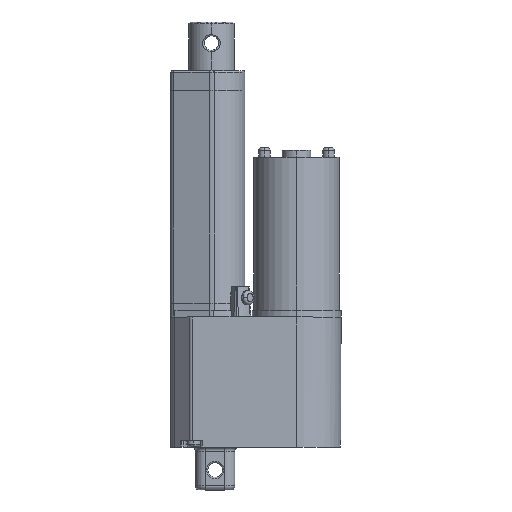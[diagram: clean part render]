
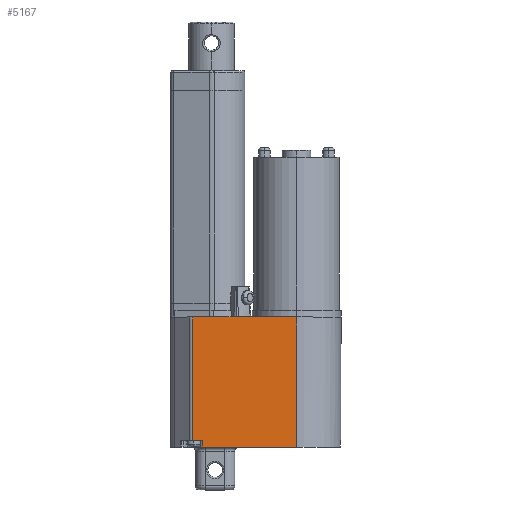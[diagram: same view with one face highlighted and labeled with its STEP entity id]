
A CAD part, top view. The second image highlights one B-rep face of the part: STEP entity #5167.
In plain terms, the highlighted planar face has unit normal (0, 0, 1).
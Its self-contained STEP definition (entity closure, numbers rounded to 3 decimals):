
#36 = LINE ( 'NONE', #2984, #7077 ) ;
#160 = PLANE ( 'NONE',  #417 ) ;
#284 = CARTESIAN_POINT ( 'NONE',  ( 55.88, 0., 0. ) ) ;
#383 = VERTEX_POINT ( 'NONE', #1426 ) ;
#417 = AXIS2_PLACEMENT_3D ( 'NONE', #4243, #860, #5608 ) ;
#558 = ORIENTED_EDGE ( 'NONE', *, *, #4098, .T. ) ;
#705 = VERTEX_POINT ( 'NONE', #284 ) ;
#860 = DIRECTION ( 'NONE',  ( 0., 0., -1. ) ) ;
#1317 = VECTOR ( 'NONE', #2172, 1000. ) ;
#1426 = CARTESIAN_POINT ( 'NONE',  ( 13.907, 2.946, 0. ) ) ;
#1522 = VECTOR ( 'NONE', #6236, 1000. ) ;
#1786 = LINE ( 'NONE', #6709, #8811 ) ;
#2141 = ORIENTED_EDGE ( 'NONE', *, *, #7668, .F. ) ;
#2172 = DIRECTION ( 'NONE',  ( -1., 0., 0. ) ) ;
#2629 = DIRECTION ( 'NONE',  ( 0., -1., 0. ) ) ;
#2676 = FACE_OUTER_BOUND ( 'NONE', #7366, .T. ) ;
#2734 = CARTESIAN_POINT ( 'NONE',  ( 9.679, 57.912, 0. ) ) ;
#2984 = CARTESIAN_POINT ( 'NONE',  ( 9.679, 57.912, 0. ) ) ;
#3536 = LINE ( 'NONE', #8282, #1522 ) ;
#4098 = EDGE_CURVE ( 'NONE', #5592, #5806, #36, .T. ) ;
#4243 = CARTESIAN_POINT ( 'NONE',  ( 8.89, 57.912, 0. ) ) ;
#4467 = EDGE_CURVE ( 'NONE', #5800, #705, #3536, .T. ) ;
#4495 = ORIENTED_EDGE ( 'NONE', *, *, #6294, .T. ) ;
#4629 = ORIENTED_EDGE ( 'NONE', *, *, #4467, .T. ) ;
#4706 = LINE ( 'NONE', #6934, #1317 ) ;
#4942 = VERTEX_POINT ( 'NONE', #7857 ) ;
#5081 = LINE ( 'NONE', #6848, #6689 ) ;
#5167 = ADVANCED_FACE ( 'NONE', ( #2676 ), #160, .F. ) ;
#5174 = VECTOR ( 'NONE', #8035, 1000. ) ;
#5395 = LINE ( 'NONE', #7353, #5174 ) ;
#5511 = DIRECTION ( 'NONE',  ( 0., -1., 0. ) ) ;
#5581 = CARTESIAN_POINT ( 'NONE',  ( 9.679, 2.946, 0. ) ) ;
#5592 = VERTEX_POINT ( 'NONE', #2734 ) ;
#5608 = DIRECTION ( 'NONE',  ( 0., -1., 0. ) ) ;
#5800 = VERTEX_POINT ( 'NONE', #6270 ) ;
#5806 = VERTEX_POINT ( 'NONE', #5581 ) ;
#6236 = DIRECTION ( 'NONE',  ( 1., 0., 0. ) ) ;
#6270 = CARTESIAN_POINT ( 'NONE',  ( 13.907, 0., 0. ) ) ;
#6294 = EDGE_CURVE ( 'NONE', #383, #5800, #5081, .T. ) ;
#6511 = EDGE_CURVE ( 'NONE', #4942, #705, #1786, .T. ) ;
#6689 = VECTOR ( 'NONE', #5511, 1000. ) ;
#6709 = CARTESIAN_POINT ( 'NONE',  ( 55.88, 57.912, 0. ) ) ;
#6848 = CARTESIAN_POINT ( 'NONE',  ( 13.907, 57.912, 0. ) ) ;
#6934 = CARTESIAN_POINT ( 'NONE',  ( 8.89, 2.946, 0. ) ) ;
#7077 = VECTOR ( 'NONE', #7758, 1000. ) ;
#7353 = CARTESIAN_POINT ( 'NONE',  ( 8.89, 57.912, 0. ) ) ;
#7366 = EDGE_LOOP ( 'NONE', ( #2141, #558, #7702, #4495, #4629, #8472 ) ) ;
#7668 = EDGE_CURVE ( 'NONE', #5592, #4942, #5395, .T. ) ;
#7702 = ORIENTED_EDGE ( 'NONE', *, *, #8499, .F. ) ;
#7758 = DIRECTION ( 'NONE',  ( 0., -1., 0. ) ) ;
#7857 = CARTESIAN_POINT ( 'NONE',  ( 55.88, 57.912, 0. ) ) ;
#8035 = DIRECTION ( 'NONE',  ( 1., 0., 0. ) ) ;
#8282 = CARTESIAN_POINT ( 'NONE',  ( 8.89, 0., 0. ) ) ;
#8472 = ORIENTED_EDGE ( 'NONE', *, *, #6511, .F. ) ;
#8499 = EDGE_CURVE ( 'NONE', #383, #5806, #4706, .T. ) ;
#8811 = VECTOR ( 'NONE', #2629, 1000. ) ;
